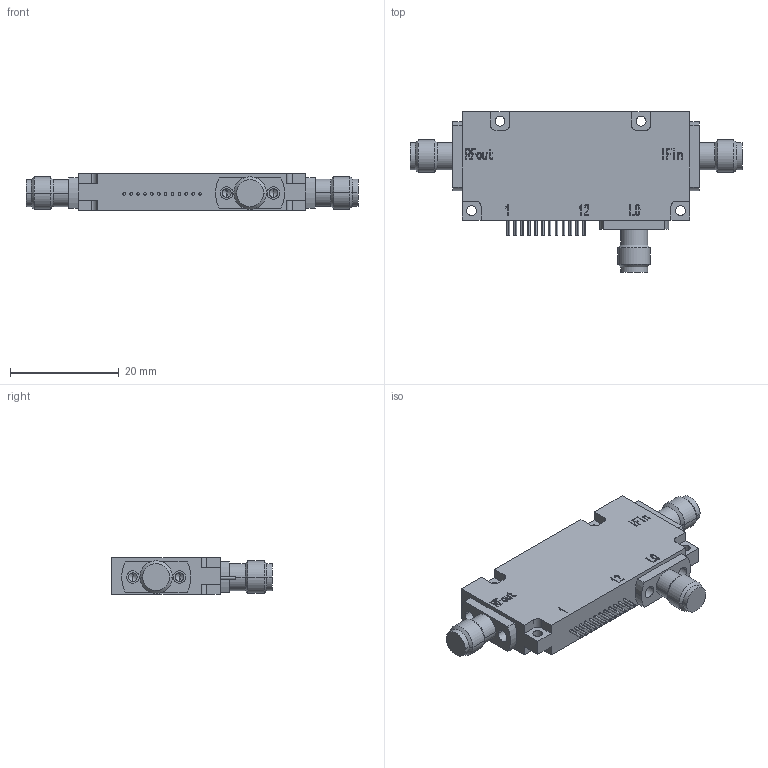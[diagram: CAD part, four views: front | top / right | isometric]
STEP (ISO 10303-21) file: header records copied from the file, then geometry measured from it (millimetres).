
FILE_DESCRIPTION (( 'STEP AP214' ), '1' );
FILE_NAME ('俋倛.STEP', '2026-06-10T01:53:06', ( '' ), ( '' ), 'SwSTEP 2.0', 'SolidWorks 2020', '' );
FILE_SCHEMA (( 'AUTOMOTIVE_DESIGN' ));
Length unit declared in the file: millimetre
Products named in the file (5): 碟极; 201630橈埽赽 - 萵掛; SMA-KFD454; SMP(M)-JYD67-L(舜峚) - ; 俋倛
Assembly tree (7 placements, depth 2):
  俋倛
    碟极
    201630橈埽赽 - 萵掛  x2
    SMP(M)-JYD67-L(舜峚) - 
    SMA-KFD454  x3
Bounding box: 61.2 x 29.6 x 6.7 mm (x, y, z)
Volume: 6216.4 mm3; surface area: 4048.6 mm2
Topology: 7 solids, 7 shells, 414 faces, 996 edges, 642 vertices
Faces by surface type: plane 198, cylinder 147, bspline 39, cone 30
Entity records: 14564 total; most frequent: CARTESIAN_POINT 4289, ORIENTED_EDGE 1704, DIRECTION 1648, EDGE_CURVE 852, VERTEX_POINT 562, LINE 550, VECTOR 550, AXIS2_PLACEMENT_3D 549
